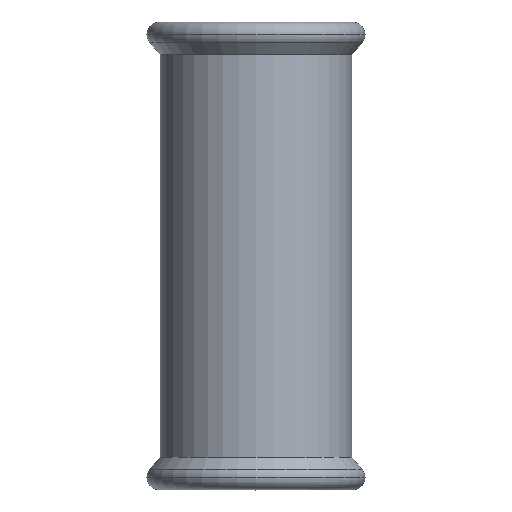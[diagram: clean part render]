
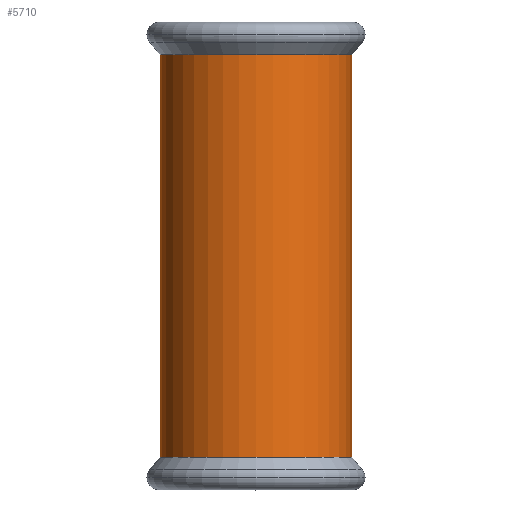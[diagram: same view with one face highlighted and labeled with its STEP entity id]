
A CAD part, top view. The second image highlights one B-rep face of the part: STEP entity #5710.
In plain terms, the highlighted cylindrical face has radius 28.7 mm (diameter 57.4 mm), a partial arc.
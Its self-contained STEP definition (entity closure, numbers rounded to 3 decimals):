
#1130=CARTESIAN_POINT('',(30.344,161.195,0.));
#1140=DIRECTION('',(0.,-1.,0.));
#1150=DIRECTION('',(1.,0.,0.));
#1160=AXIS2_PLACEMENT_3D('',#1130,#1140,#1150);
#1170=CYLINDRICAL_SURFACE('',#1160,28.7);
#1180=CARTESIAN_POINT('',(59.044,161.195,0.));
#1190=DIRECTION('',(0.,-1.,0.));
#1200=VECTOR('',#1190,1.);
#1210=LINE('',#1180,#1200);
#1220=CARTESIAN_POINT('',(59.044,221.441,0.));
#1230=VERTEX_POINT('',#1220);
#1240=CARTESIAN_POINT('',(59.044,100.949,0.));
#1250=VERTEX_POINT('',#1240);
#1260=EDGE_CURVE('',#1230,#1250,#1210,.T.);
#1280=CARTESIAN_POINT('',(30.344,221.441,0.));
#1290=DIRECTION('',(0.,1.,0.));
#1300=DIRECTION('',(-1.,0.,0.));
#1310=AXIS2_PLACEMENT_3D('',#1280,#1290,#1300);
#1320=CIRCLE('',#1310,28.7);
#1330=CARTESIAN_POINT('',(1.644,221.441,
0.));
#1340=VERTEX_POINT('',#1330);
#1370=CARTESIAN_POINT('',(1.644,161.195,
0.));
#1380=DIRECTION('',(0.,-1.,0.));
#1390=VECTOR('',#1380,1.);
#1400=LINE('',#1370,#1390);
#1410=CARTESIAN_POINT('',(1.644,100.949,
0.));
#1420=VERTEX_POINT('',#1410);
#1430=EDGE_CURVE('',#1340,#1420,#1400,.T.);
#1450=CARTESIAN_POINT('',(30.344,100.949,0.));
#1460=DIRECTION('',(0.,-1.,0.));
#1470=DIRECTION('',(1.,0.,0.));
#1480=AXIS2_PLACEMENT_3D('',#1450,#1460,#1470);
#1490=CIRCLE('',#1480,28.7);
#5630=EDGE_CURVE('',#1250,#1420,#1490,.T.);
#5640=ORIENTED_EDGE('',*,*,#5630,.F.);
#5650=ORIENTED_EDGE('',*,*,#1430,.T.);
#5660=EDGE_CURVE('',#1340,#1230,#1320,.T.);
#5670=ORIENTED_EDGE('',*,*,#5660,.F.);
#5680=ORIENTED_EDGE('',*,*,#1260,.F.);
#5690=EDGE_LOOP('',(#5680,#5670,#5650,#5640));
#5700=FACE_OUTER_BOUND('',#5690,.T.);
#5710=ADVANCED_FACE('',(#5700),#1170,.T.);
